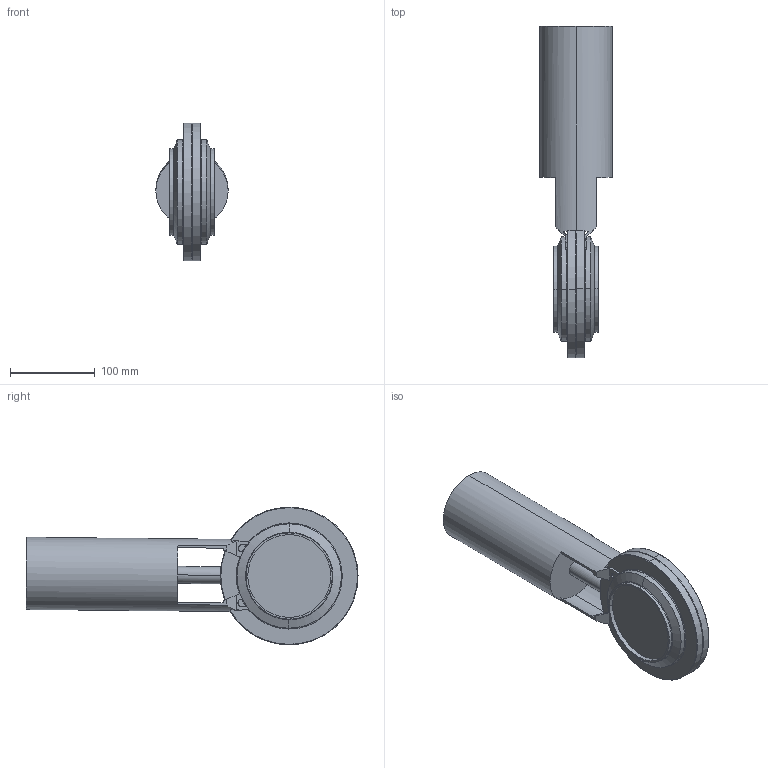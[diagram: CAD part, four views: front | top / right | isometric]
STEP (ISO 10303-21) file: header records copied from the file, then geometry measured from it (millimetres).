
FILE_DESCRIPTION(('OneSpaceDesigner STEP Export'),'2;1');
FILE_NAME('25-80-005-..vereint.stp','2007-04-20T10:25:34',(''),(''),'OneSpace Designer STEP processor for AP214 (Solid Model)','OneSpace Modeling 15.00 06-Feb-2007 (C) CoCreate Software GmbH','');
FILE_SCHEMA(('AUTOMOTIVE_DESIGN { 1 0 10303 214 1 1 1 1 }'));
Length unit declared in the file: millimetre
Products named in the file (2): SV1-4zoll-FZ-12S; SV1-4zoll-FZ-12S-vereint
Assembly tree (1 placements, depth 2):
  SV1-4zoll-FZ-12S-vereint
    SV1-4zoll-FZ-12S
Bounding box: 85 x 390.91 x 161.99 mm (x, y, z)
Volume: 1714426 mm3; surface area: 139660.3 mm2
Topology: 1 solids, 1 shells, 148 faces, 425 edges, 272 vertices
Faces by surface type: plane 62, cylinder 46, cone 24, torus 16
Entity records: 6230 total; most frequent: CARTESIAN_POINT 2806, ORIENTED_EDGE 850, DIRECTION 536, EDGE_CURVE 425, VERTEX_POINT 272, VECTOR 180, LINE 180, AXIS2_PLACEMENT_3D 178
